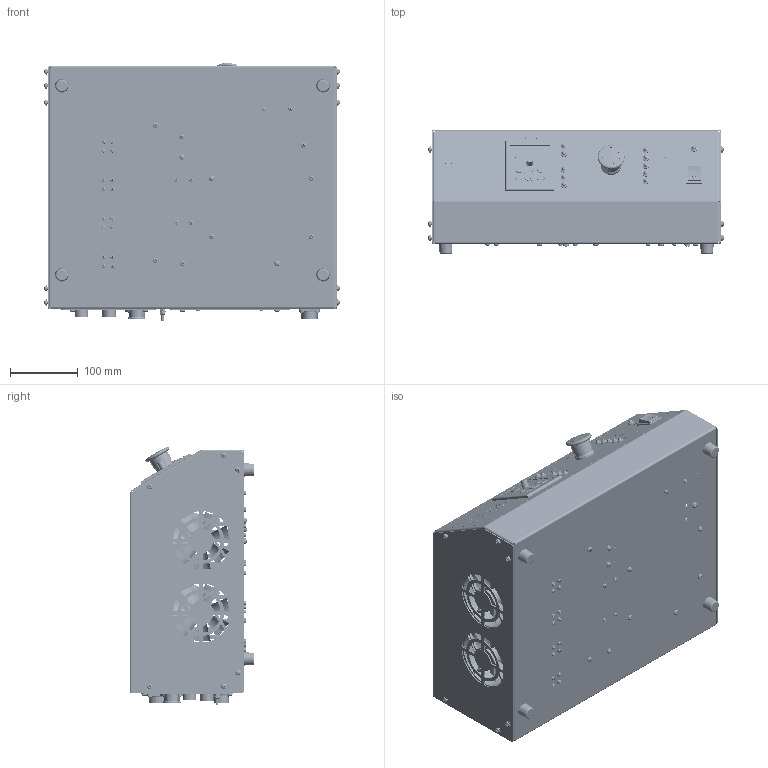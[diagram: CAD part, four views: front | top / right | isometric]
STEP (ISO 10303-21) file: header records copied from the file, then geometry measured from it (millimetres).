
FILE_DESCRIPTION(('STEP AP203'), '1');
FILE_NAME('Áëîê óïðàâëåíèÿ ×ÏÓ CNC86 ñ ëèöåíçèåé íà ïðîãðàììíûé ïàêåò PUMOTIX', '2022-09-19T13:27:28', (''), (''), 'ASCON STEP Converter 1.6', 'ASCON Math Kernel', '');
FILE_SCHEMA(('CONFIG_CONTROL_DESIGN'));
Length unit declared in the file: millimetre
Products named in the file (1): CNC86.00.00.000
Bounding box: 437.64 x 184.5 x 382.47 mm (x, y, z)
Volume: 1368952.3 mm3; surface area: 1470230.9 mm2
Topology: 113 solids, 113 shells, 27067 faces, 74678 edges, 48994 vertices
Faces by surface type: plane 16138, cylinder 7832, extrusion 1720, bspline 594, cone 456, torus 242, sphere 85
Full cylindrical faces by diameter (mm): 1 x4, 1.5 x54, 1.55 x4, 2 x8, 2.4 x4, 2.459 x33, 2.5 x8, 2.7 x4, 3 x95, 3.2 x60, 3.242 x28, 3.3 x12, 3.4 x28, 3.5 x37, 3.6 x4, 4 x44, 4.3 x20, 4.4 x38, 5 x21, 5.5 x47, 5.6 x34, 6 x35, 6.4 x2, 7 x28, 8 x56, 8.4 x8, 9 x35, 9.5 x11, 9.8 x5, 11 x5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
Entity records: 1142296 total; most frequent: CARTESIAN_POINT 236118, ORIENTED_EDGE 146446, DIRECTION 136481, EDGE_CURVE 73223, VECTOR 51503, LINE 49783, VERTEX_POINT 48971, AXIS2_PLACEMENT_3D 42489
